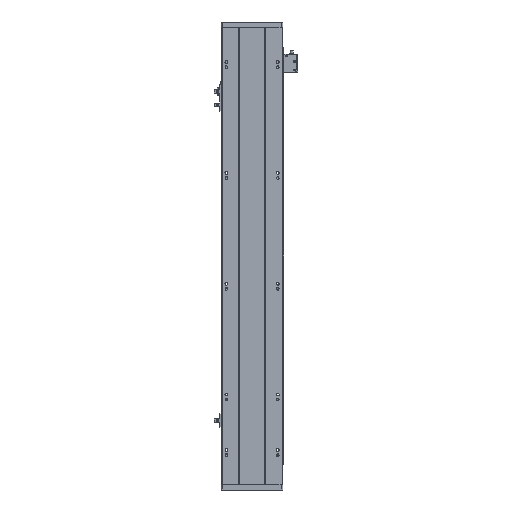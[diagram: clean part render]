
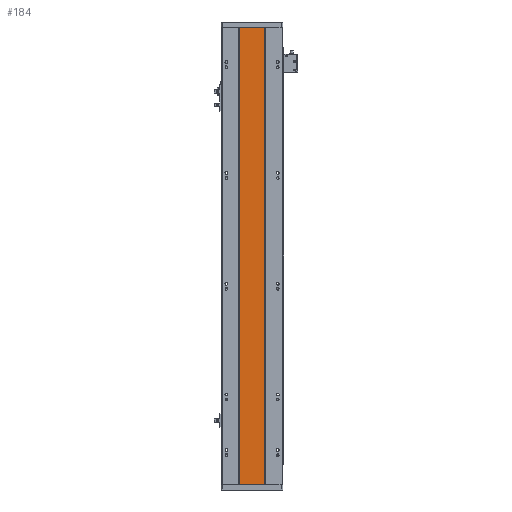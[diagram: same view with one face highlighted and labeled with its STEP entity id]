
A CAD part, front view. The second image highlights one B-rep face of the part: STEP entity #184.
In plain terms, the highlighted planar face has unit normal (0, -1, 0).
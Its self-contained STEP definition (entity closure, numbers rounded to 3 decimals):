
#184 = ADVANCED_FACE ( 'NONE', ( #7245 ), #5104, .F. ) ;
#438 = CARTESIAN_POINT ( 'NONE',  ( 133.07, 115.96, 892. ) ) ;
#475 = DIRECTION ( 'NONE',  ( 1., 0., 0. ) ) ;
#635 = VERTEX_POINT ( 'NONE', #25808 ) ;
#2375 = VECTOR ( 'NONE', #6815, 1000. ) ;
#2567 = VERTEX_POINT ( 'NONE', #21956 ) ;
#2768 = LINE ( 'NONE', #23972, #17180 ) ;
#3077 = EDGE_CURVE ( 'NONE', #2567, #13492, #5531, .T. ) ;
#3860 = LINE ( 'NONE', #438, #19847 ) ;
#4094 = VERTEX_POINT ( 'NONE', #6806 ) ;
#5104 = PLANE ( 'NONE',  #7295 ) ;
#5531 = LINE ( 'NONE', #18799, #2375 ) ;
#6806 = CARTESIAN_POINT ( 'NONE',  ( 133.07, 115.96, 892. ) ) ;
#6815 = DIRECTION ( 'NONE',  ( 0., 0., -1. ) ) ;
#7245 = FACE_OUTER_BOUND ( 'NONE', #8130, .T. ) ;
#7295 = AXIS2_PLACEMENT_3D ( 'NONE', #18082, #13391, #11487 ) ;
#8130 = EDGE_LOOP ( 'NONE', ( #22049, #13308, #17053, #12737 ) ) ;
#8584 = DIRECTION ( 'NONE',  ( 0., 0., -1. ) ) ;
#11487 = DIRECTION ( 'NONE',  ( -1., 0., 0. ) ) ;
#12055 = VECTOR ( 'NONE', #475, 1000. ) ;
#12457 = CARTESIAN_POINT ( 'NONE',  ( 0., 115.96, 892. ) ) ;
#12737 = ORIENTED_EDGE ( 'NONE', *, *, #23327, .T. ) ;
#13308 = ORIENTED_EDGE ( 'NONE', *, *, #3077, .F. ) ;
#13345 = EDGE_CURVE ( 'NONE', #4094, #2567, #19265, .T. ) ;
#13391 = DIRECTION ( 'NONE',  ( 0., 1., 0. ) ) ;
#13492 = VERTEX_POINT ( 'NONE', #25283 ) ;
#14068 = DIRECTION ( 'NONE',  ( 1., 0., 0. ) ) ;
#17053 = ORIENTED_EDGE ( 'NONE', *, *, #13345, .F. ) ;
#17180 = VECTOR ( 'NONE', #14068, 1000. ) ;
#18082 = CARTESIAN_POINT ( 'NONE',  ( 0., 115.96, 892. ) ) ;
#18799 = CARTESIAN_POINT ( 'NONE',  ( 183.063, 115.96, 892. ) ) ;
#19265 = LINE ( 'NONE', #12457, #12055 ) ;
#19847 = VECTOR ( 'NONE', #8584, 1000. ) ;
#21956 = CARTESIAN_POINT ( 'NONE',  ( 183.063, 115.96, 892. ) ) ;
#22049 = ORIENTED_EDGE ( 'NONE', *, *, #25399, .T. ) ;
#23327 = EDGE_CURVE ( 'NONE', #4094, #635, #3860, .T. ) ;
#23972 = CARTESIAN_POINT ( 'NONE',  ( 0., 115.96, 0. ) ) ;
#25283 = CARTESIAN_POINT ( 'NONE',  ( 183.063, 115.96, 0. ) ) ;
#25399 = EDGE_CURVE ( 'NONE', #635, #13492, #2768, .T. ) ;
#25808 = CARTESIAN_POINT ( 'NONE',  ( 133.07, 115.96, 0. ) ) ;
